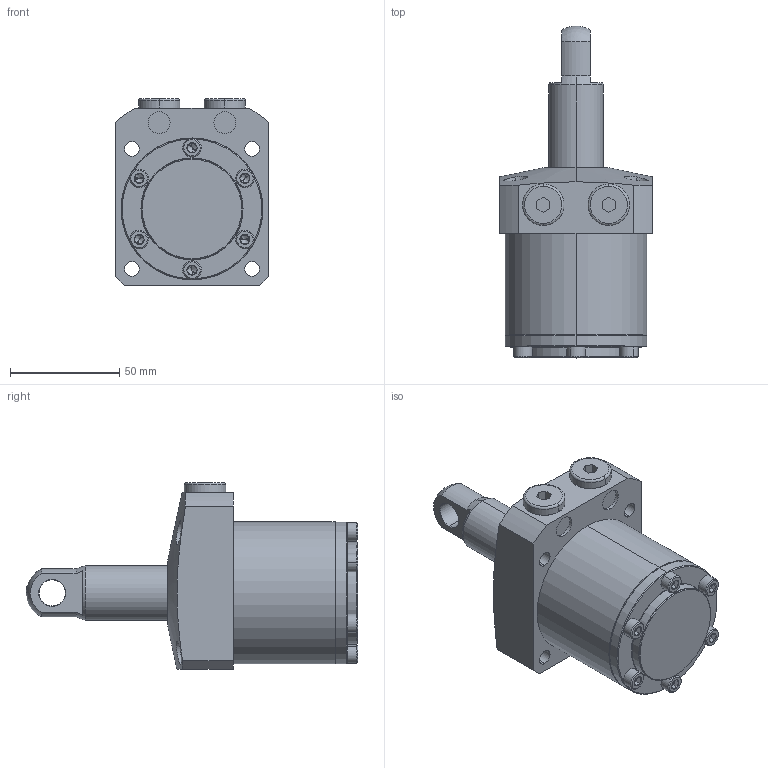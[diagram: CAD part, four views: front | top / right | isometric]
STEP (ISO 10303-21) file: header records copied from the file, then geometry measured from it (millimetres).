
FILE_DESCRIPTION (( 'STEP AP203' ), '1' );
FILE_NAME ('680650-CP-040.step', '2016-11-02T03:25:48', ( 'wxp' ), ( '' ), 'SwSTEP 2.0', 'SolidWorks 2011', '' );
FILE_SCHEMA (( 'CONFIG_CONTROL_DESIGN' ));
Length unit declared in the file: millimetre
Products named in the file (6): 680650-CP-040; 葩璃 680650-CA-15-14^680650-CP-040; 葩璃 68065-CA-15-5^680650-CP-040; 葩璃 68065-CA-15-4^680650-CP-040; 葩璃 68065-CA-15-3^680650-CP-040; 葩璃68065-CA-15-1^680650-CP-040
Assembly tree (11 placements, depth 2):
  680650-CP-040
    葩璃 68065-CA-15-5^680650-CP-040  x2
    葩璃 68065-CA-15-4^680650-CP-040  x6
    葩璃68065-CA-15-1^680650-CP-040
    葩璃 680650-CA-15-14^680650-CP-040
    葩璃 68065-CA-15-3^680650-CP-040
Bounding box: 70 x 152 x 85.5 mm (x, y, z)
Volume: 347262.4 mm3; surface area: 52513.1 mm2
Topology: 11 solids, 11 shells, 342 faces, 672 edges, 368 vertices
Faces by surface type: plane 137, cone 96, cylinder 91, torus 16, sphere 2
Entity records: 5638 total; most frequent: CARTESIAN_POINT 1183, DIRECTION 853, ORIENTED_EDGE 692, AXIS2_PLACEMENT_3D 358, EDGE_CURVE 346, VERTEX_POINT 211, EDGE_LOOP 199, CIRCLE 183
